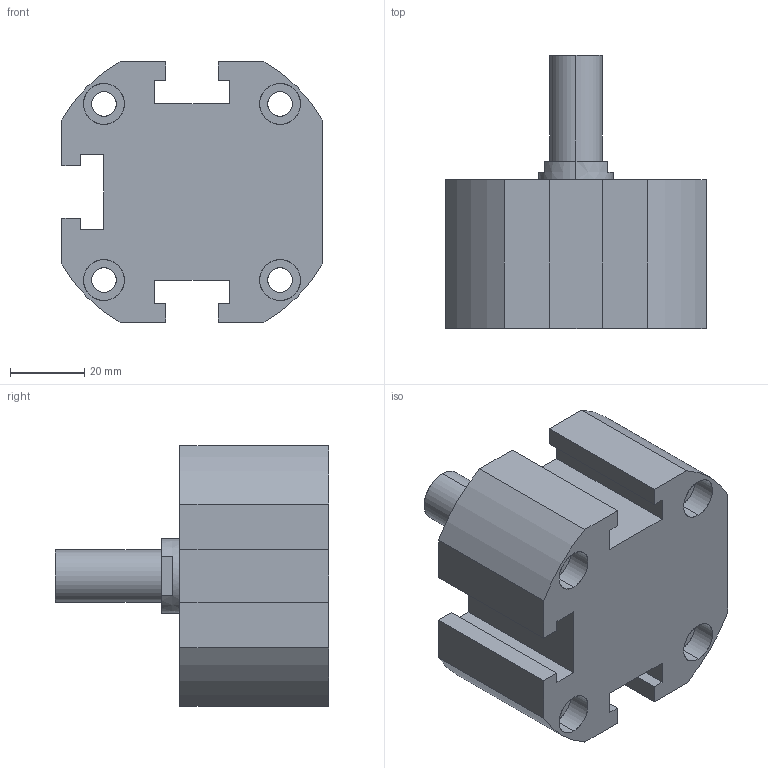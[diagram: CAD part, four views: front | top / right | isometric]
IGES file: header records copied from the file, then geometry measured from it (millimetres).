
Start section: SolidWorks IGES file using analytic representation for surfaces
Global section: file name: C:\Users\Toshiba\Desktop\XC#M0-50-10.IGS; native system: SolidWorks 2014; preprocessor: SolidWorks 2014; author: Toshiba; date: 160523.163526; units: millimetre
Bounding box: 70 x 73.5 x 70 mm (x, y, z)
Surface area: 27948.2 mm2 (no closed solid volume)
Topology: 0 solids, 0 shells, 106 faces, 1946 edges, 1944 vertices
Faces by surface type: revolution 56, bspline 50
